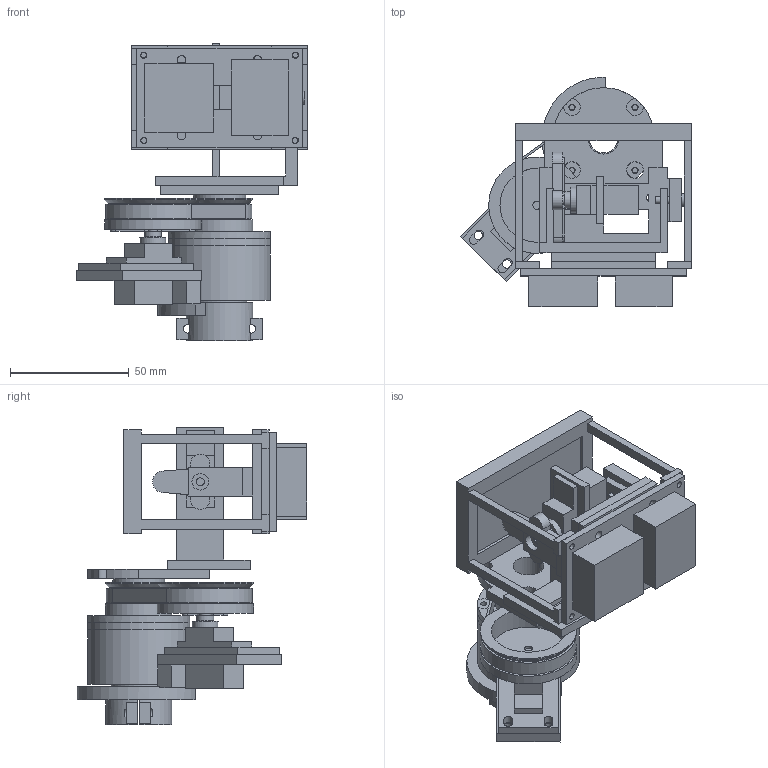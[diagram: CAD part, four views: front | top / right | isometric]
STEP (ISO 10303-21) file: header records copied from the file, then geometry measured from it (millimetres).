
FILE_DESCRIPTION(('FreeCAD Model'),'2;1');
FILE_NAME('Open CASCADE Shape Model','2026-10-05T10:41:14',('FreeCAD'),( 'FreeCAD'),'Open CASCADE STEP processor 7.8','FreeCAD','Unknown');
FILE_SCHEMA(('AUTOMOTIVE_DESIGN { 1 0 10303 214 1 1 1 1 }'));
Length unit declared in the file: millimetre
Products named in the file (1): Open CASCADE STEP translator 7.8 1
Bounding box: 97.22 x 97 x 125.5 mm (x, y, z)
Volume: 166890.8 mm3; surface area: 101704.7 mm2
Topology: 24 solids, 24 shells, 942 faces, 2484 edges, 1632 vertices
Faces by surface type: plane 589, cylinder 350, cone 3
Full cylindrical faces by diameter (mm): 2.35 x16, 2.6 x12, 3 x1, 3.4 x2, 3.6 x19, 4.8 x2, 5 x2, 5.5 x1, 7 x3, 7.1 x4, 7.65 x2, 11 x2, 12 x1, 13 x1, 19.25 x2, 20 x2, 20.05 x2, 20.2 x1, 22 x1, 23 x1, 24 x1, 24.8 x1, 26 x1, 27.957 x1, 28 x1, 29 x1, 30 x1, 31.189 x1, 32 x2, 32.35 x2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
Entity records: 29708 total; most frequent: DIRECTION 5332, CARTESIAN_POINT 5221, ORIENTED_EDGE 4968, EDGE_CURVE 2484, AXIS2_PLACEMENT_3D 1917, VERTEX_POINT 1632, LINE 1498, VECTOR 1498
